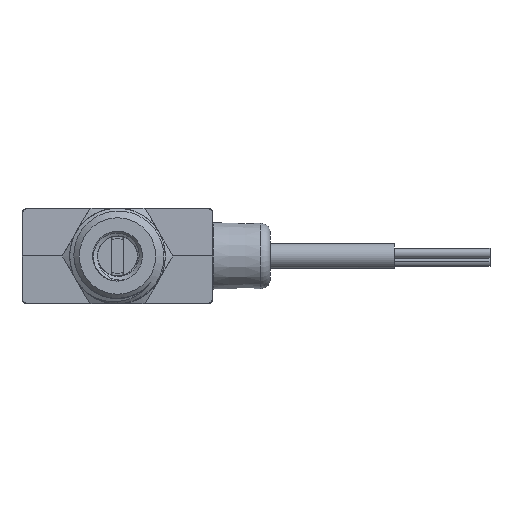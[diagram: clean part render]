
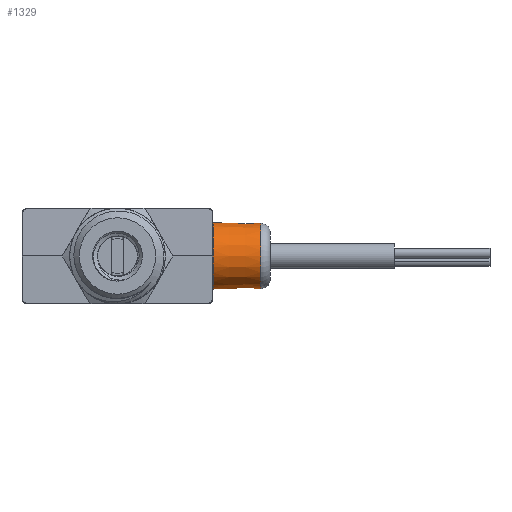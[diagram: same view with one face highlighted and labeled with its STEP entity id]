
A CAD part, front view. The second image highlights one B-rep face of the part: STEP entity #1329.
In plain terms, the highlighted conical face has half-angle 1 degrees and reference radius 3.456 mm.
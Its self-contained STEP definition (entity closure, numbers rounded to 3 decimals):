
#1329=ADVANCED_FACE('',(#2677,#2678),#2679,.T.);
#2677=FACE_BOUND('',#7438,.T.);
#2678=FACE_OUTER_BOUND('',#7439,.T.);
#2679=CONICAL_SURFACE('',#7440,3.456,0.017);
#7438=EDGE_LOOP('',(#11391));
#7439=EDGE_LOOP('',(#11392));
#7440=AXIS2_PLACEMENT_3D('',#11393,#11394,#11395);
#11391=ORIENTED_EDGE('',*,*,#13007,.T.);
#11392=ORIENTED_EDGE('',*,*,#13014,.T.);
#11393=CARTESIAN_POINT('',(12.509,3.1,0.0));
#11394=DIRECTION('',(-1.0,0.0,-0.0));
#11395=DIRECTION('',(0.0,1.0,0.0));
#13007=EDGE_CURVE('',#15409,#15409,#15410,.T.);
#13014=EDGE_CURVE('',#15420,#15420,#15421,.T.);
#15409=VERTEX_POINT('',#22012);
#15410=CIRCLE('',#22013,3.412);
#15420=VERTEX_POINT('',#22023);
#15421=CIRCLE('',#22024,3.5);
#22012=CARTESIAN_POINT('',(15.017,6.512,0.0));
#22013=AXIS2_PLACEMENT_3D('',#23258,#23259,#23260);
#22023=CARTESIAN_POINT('',(10.0,6.6,0.0));
#22024=AXIS2_PLACEMENT_3D('',#23270,#23271,#23272);
#23258=CARTESIAN_POINT('',(15.017,3.1,0.0));
#23259=DIRECTION('',(-1.0,0.0,0.0));
#23260=DIRECTION('',(0.0,1.0,0.0));
#23270=CARTESIAN_POINT('',(10.0,3.1,0.0));
#23271=DIRECTION('',(1.0,0.0,0.0));
#23272=DIRECTION('',(0.0,1.0,0.0));
